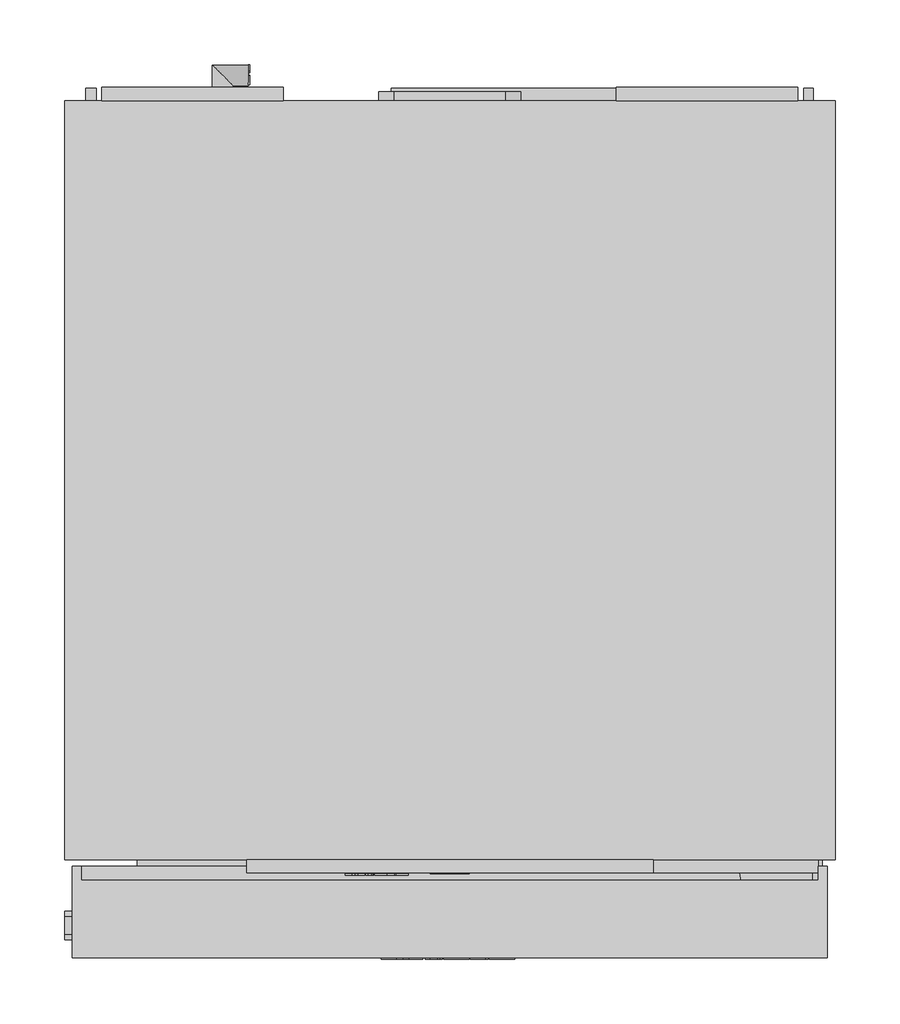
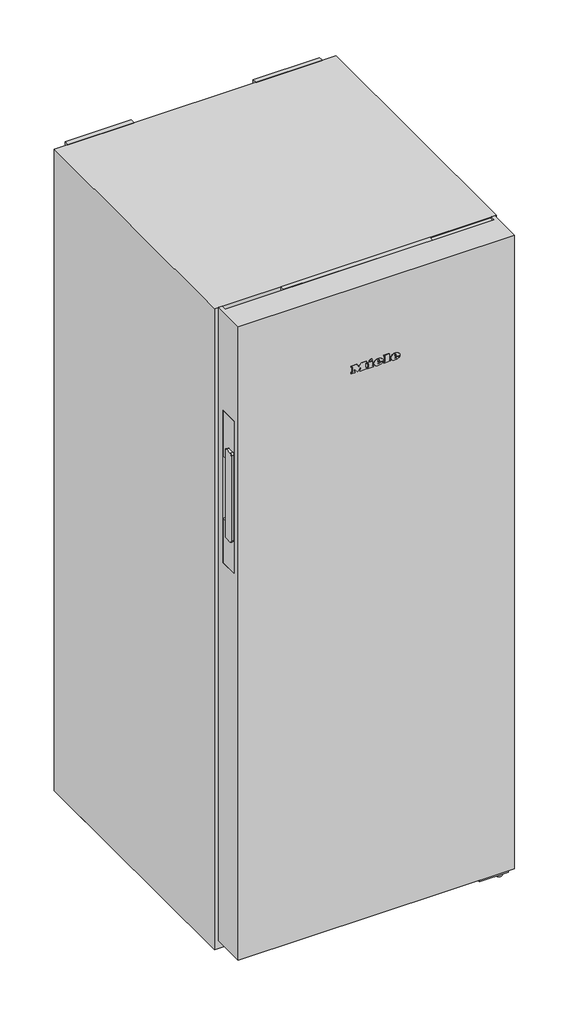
# Not in any storey: 1 proxy.
"""IFC4 building model written with IfcOpenShell, lengths in millimetres."""

from ifc_helpers import new_model, si_unit, origin, place, context, project, spatial, transform, mapped, element, save
from components import specialty_equipment_0bd2b944

model = new_model("IFC4")

# Units and contexts
model_context = context("Model", 3, world=origin())
ifc_project = project(units=[si_unit("LENGTHUNIT", "METRE", prefix="MILLI")], contexts=[model_context])

# Site, building
site = spatial("IfcSite", under=ifc_project)
building = spatial("IfcBuilding", under=site)

# Proxy
placement = place(None, origin())
specialty_equipment_shape = specialty_equipment_0bd2b944(model_context)
element("IfcBuildingElementProxy", 1, Name="11953500_EU1_FN4822D_WS : 37482244_EU1_11953500_FN4822D_WS", ObjectType="11953500_EU1_FN4822D_WS : 37482244_EU1_11953500_FN4822D_WS", at=placement, inside=building, context=model_context, shape_type="MappedRepresentation", body=[
    mapped(specialty_equipment_shape, transform((0.0, 0.0, 0.0), x_axis=(1.0, 0.0, 0.0), y_axis=(0.0, 1.0, 0.0), z_axis=(0.0, 0.0, 1.0))),
])

save(model, "model.ifc")
